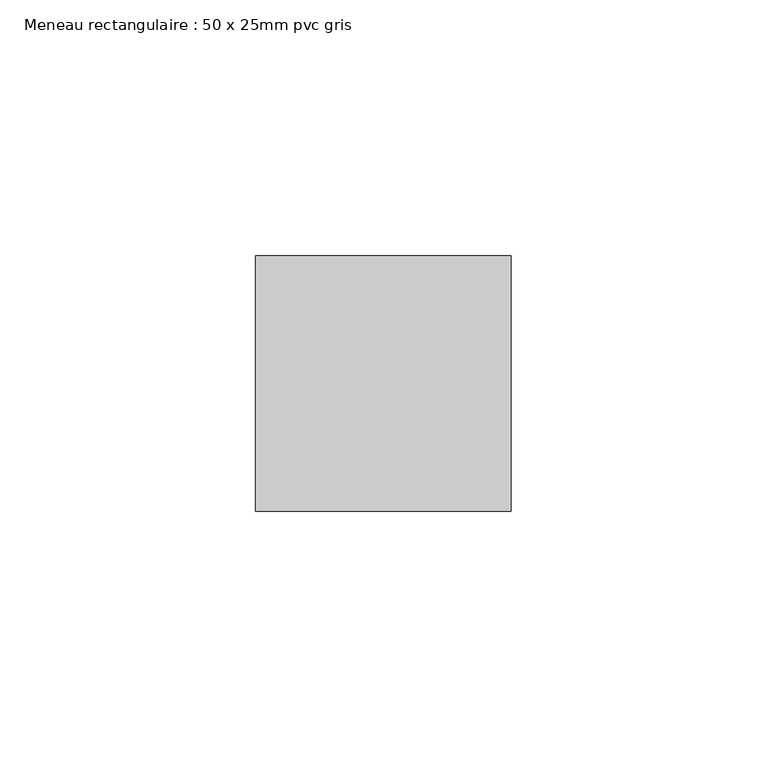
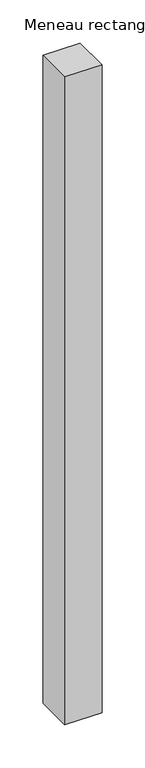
"""IFC4 building model written with IfcOpenShell, lengths in millimetres: member geometry, Meneau rectangulaire : 50 x 25mm pvc gris."""

from ifc_helpers import new_model, si_unit, frame, origin, place, context, project, spatial, polyline, outline, extrude, source, transform, mapped, element, save


def meneau_rectangulaire_50_x_25mm_pvc_gris_ecfd51b7(model_context):
    return source(origin(), model_context, "Body", "SweptSolid", [
        extrude(outline(polyline([(0.0, 0.0), (0.0, -50.0), (-50.0, -50.0), (-50.0, 0.0), (0.0, 0.0)])), frame((0.0, 0.0, -917.0), z_axis=(0.0, 0.0, 1.0), x_axis=(1.0, 0.0, 0.0)), (0.0, 0.0, 1.0), 917.0),
    ])


if __name__ == "__main__":
    model = new_model("IFC4")
    model_context = context("Model", 3, world=origin())
    ifc_project = project(units=[si_unit("LENGTHUNIT", "METRE", prefix="MILLI")], contexts=[model_context])
    site = spatial("IfcSite", under=ifc_project)
    building = spatial("IfcBuilding", under=site)
    placement = place(None, origin())
    meneau_rectangulaire_50_x_25mm_pvc_gris_shape = meneau_rectangulaire_50_x_25mm_pvc_gris_ecfd51b7(model_context)
    element("IfcMember", 1, ObjectType="Meneau rectangulaire : 50 x 25mm pvc gris", at=placement, inside=building, context=model_context, shape_type="MappedRepresentation", body=[
        mapped(meneau_rectangulaire_50_x_25mm_pvc_gris_shape, transform((0.0, 0.0, 0.0), x_axis=(1.0, 0.0, 0.0), y_axis=(0.0, 1.0, 0.0), z_axis=(0.0, 0.0, 1.0))),
    ])
    save(model, "model.ifc")
